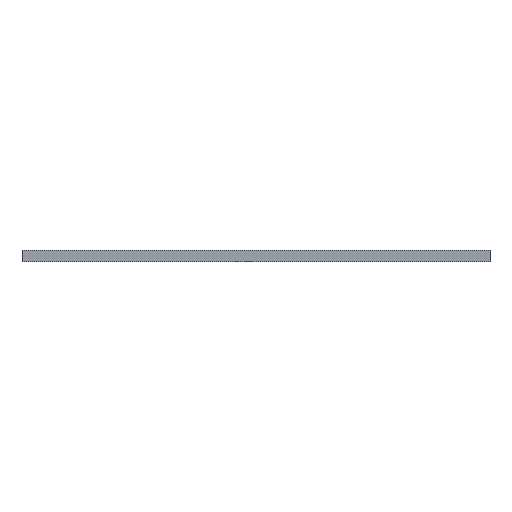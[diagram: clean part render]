
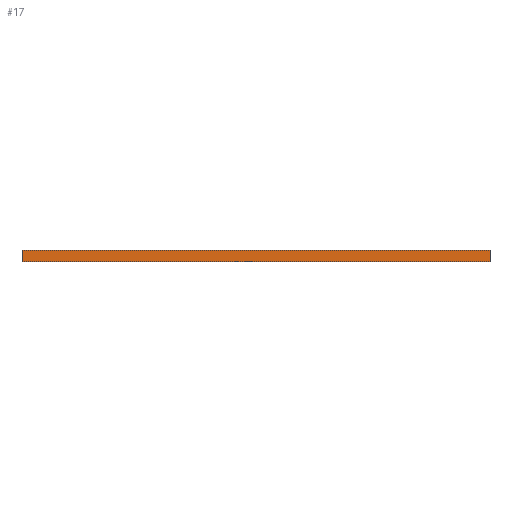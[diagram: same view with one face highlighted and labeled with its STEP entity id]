
A CAD part, left-side view. The second image highlights one B-rep face of the part: STEP entity #17.
In plain terms, the highlighted planar face has unit normal (-1, 0, 0).
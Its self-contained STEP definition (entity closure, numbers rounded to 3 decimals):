
#17 = ADVANCED_FACE('',(#18),#32,.F.);
#18 = FACE_BOUND('',#19,.F.);
#19 = EDGE_LOOP('',(#20,#55,#83,#111));
#20 = ORIENTED_EDGE('',*,*,#21,.F.);
#21 = EDGE_CURVE('',#22,#24,#26,.T.);
#22 = VERTEX_POINT('',#23);
#23 = CARTESIAN_POINT('',(-85.,-85.,-2.));
#24 = VERTEX_POINT('',#25);
#25 = CARTESIAN_POINT('',(-85.,-85.,2.));
#26 = SURFACE_CURVE('',#27,(#31,#43),.PCURVE_S1.);
#27 = LINE('',#28,#29);
#28 = CARTESIAN_POINT('',(-85.,-85.,-2.));
#29 = VECTOR('',#30,1.);
#30 = DIRECTION('',(0.,0.,1.));
#31 = PCURVE('',#32,#37);
#32 = PLANE('',#33);
#33 = AXIS2_PLACEMENT_3D('',#34,#35,#36);
#34 = CARTESIAN_POINT('',(-85.,-85.,-2.));
#35 = DIRECTION('',(1.,0.,-0.));
#36 = DIRECTION('',(0.,0.,1.));
#37 = DEFINITIONAL_REPRESENTATION('',(#38),#42);
#38 = LINE('',#39,#40);
#39 = CARTESIAN_POINT('',(0.,0.));
#40 = VECTOR('',#41,1.);
#41 = DIRECTION('',(1.,0.));
#42 = ( GEOMETRIC_REPRESENTATION_CONTEXT(2) 
PARAMETRIC_REPRESENTATION_CONTEXT() REPRESENTATION_CONTEXT('2D SPACE',''
  ) );
#43 = PCURVE('',#44,#49);
#44 = PLANE('',#45);
#45 = AXIS2_PLACEMENT_3D('',#46,#47,#48);
#46 = CARTESIAN_POINT('',(-85.,-85.,-2.));
#47 = DIRECTION('',(-0.,1.,0.));
#48 = DIRECTION('',(0.,0.,1.));
#49 = DEFINITIONAL_REPRESENTATION('',(#50),#54);
#50 = LINE('',#51,#52);
#51 = CARTESIAN_POINT('',(0.,0.));
#52 = VECTOR('',#53,1.);
#53 = DIRECTION('',(1.,0.));
#54 = ( GEOMETRIC_REPRESENTATION_CONTEXT(2) 
PARAMETRIC_REPRESENTATION_CONTEXT() REPRESENTATION_CONTEXT('2D SPACE',''
  ) );
#55 = ORIENTED_EDGE('',*,*,#56,.T.);
#56 = EDGE_CURVE('',#22,#57,#59,.T.);
#57 = VERTEX_POINT('',#58);
#58 = CARTESIAN_POINT('',(-85.,85.,-2.));
#59 = SURFACE_CURVE('',#60,(#64,#71),.PCURVE_S1.);
#60 = LINE('',#61,#62);
#61 = CARTESIAN_POINT('',(-85.,-85.,-2.));
#62 = VECTOR('',#63,1.);
#63 = DIRECTION('',(-0.,1.,0.));
#64 = PCURVE('',#32,#65);
#65 = DEFINITIONAL_REPRESENTATION('',(#66),#70);
#66 = LINE('',#67,#68);
#67 = CARTESIAN_POINT('',(0.,0.));
#68 = VECTOR('',#69,1.);
#69 = DIRECTION('',(0.,-1.));
#70 = ( GEOMETRIC_REPRESENTATION_CONTEXT(2) 
PARAMETRIC_REPRESENTATION_CONTEXT() REPRESENTATION_CONTEXT('2D SPACE',''
  ) );
#71 = PCURVE('',#72,#77);
#72 = PLANE('',#73);
#73 = AXIS2_PLACEMENT_3D('',#74,#75,#76);
#74 = CARTESIAN_POINT('',(-85.,-85.,-2.));
#75 = DIRECTION('',(0.,0.,1.));
#76 = DIRECTION('',(1.,0.,-0.));
#77 = DEFINITIONAL_REPRESENTATION('',(#78),#82);
#78 = LINE('',#79,#80);
#79 = CARTESIAN_POINT('',(0.,0.));
#80 = VECTOR('',#81,1.);
#81 = DIRECTION('',(0.,1.));
#82 = ( GEOMETRIC_REPRESENTATION_CONTEXT(2) 
PARAMETRIC_REPRESENTATION_CONTEXT() REPRESENTATION_CONTEXT('2D SPACE',''
  ) );
#83 = ORIENTED_EDGE('',*,*,#84,.T.);
#84 = EDGE_CURVE('',#57,#85,#87,.T.);
#85 = VERTEX_POINT('',#86);
#86 = CARTESIAN_POINT('',(-85.,85.,2.));
#87 = SURFACE_CURVE('',#88,(#92,#99),.PCURVE_S1.);
#88 = LINE('',#89,#90);
#89 = CARTESIAN_POINT('',(-85.,85.,-2.));
#90 = VECTOR('',#91,1.);
#91 = DIRECTION('',(0.,0.,1.));
#92 = PCURVE('',#32,#93);
#93 = DEFINITIONAL_REPRESENTATION('',(#94),#98);
#94 = LINE('',#95,#96);
#95 = CARTESIAN_POINT('',(0.,-170.));
#96 = VECTOR('',#97,1.);
#97 = DIRECTION('',(1.,0.));
#98 = ( GEOMETRIC_REPRESENTATION_CONTEXT(2) 
PARAMETRIC_REPRESENTATION_CONTEXT() REPRESENTATION_CONTEXT('2D SPACE',''
  ) );
#99 = PCURVE('',#100,#105);
#100 = PLANE('',#101);
#101 = AXIS2_PLACEMENT_3D('',#102,#103,#104);
#102 = CARTESIAN_POINT('',(-85.,85.,-2.));
#103 = DIRECTION('',(-0.,1.,0.));
#104 = DIRECTION('',(0.,0.,1.));
#105 = DEFINITIONAL_REPRESENTATION('',(#106),#110);
#106 = LINE('',#107,#108);
#107 = CARTESIAN_POINT('',(0.,0.));
#108 = VECTOR('',#109,1.);
#109 = DIRECTION('',(1.,0.));
#110 = ( GEOMETRIC_REPRESENTATION_CONTEXT(2) 
PARAMETRIC_REPRESENTATION_CONTEXT() REPRESENTATION_CONTEXT('2D SPACE',''
  ) );
#111 = ORIENTED_EDGE('',*,*,#112,.F.);
#112 = EDGE_CURVE('',#24,#85,#113,.T.);
#113 = SURFACE_CURVE('',#114,(#118,#125),.PCURVE_S1.);
#114 = LINE('',#115,#116);
#115 = CARTESIAN_POINT('',(-85.,-85.,2.));
#116 = VECTOR('',#117,1.);
#117 = DIRECTION('',(-0.,1.,0.));
#118 = PCURVE('',#32,#119);
#119 = DEFINITIONAL_REPRESENTATION('',(#120),#124);
#120 = LINE('',#121,#122);
#121 = CARTESIAN_POINT('',(4.,0.));
#122 = VECTOR('',#123,1.);
#123 = DIRECTION('',(0.,-1.));
#124 = ( GEOMETRIC_REPRESENTATION_CONTEXT(2) 
PARAMETRIC_REPRESENTATION_CONTEXT() REPRESENTATION_CONTEXT('2D SPACE',''
  ) );
#125 = PCURVE('',#126,#131);
#126 = PLANE('',#127);
#127 = AXIS2_PLACEMENT_3D('',#128,#129,#130);
#128 = CARTESIAN_POINT('',(-85.,-85.,2.));
#129 = DIRECTION('',(0.,0.,1.));
#130 = DIRECTION('',(1.,0.,-0.));
#131 = DEFINITIONAL_REPRESENTATION('',(#132),#136);
#132 = LINE('',#133,#134);
#133 = CARTESIAN_POINT('',(0.,0.));
#134 = VECTOR('',#135,1.);
#135 = DIRECTION('',(0.,1.));
#136 = ( GEOMETRIC_REPRESENTATION_CONTEXT(2) 
PARAMETRIC_REPRESENTATION_CONTEXT() REPRESENTATION_CONTEXT('2D SPACE',''
  ) );
